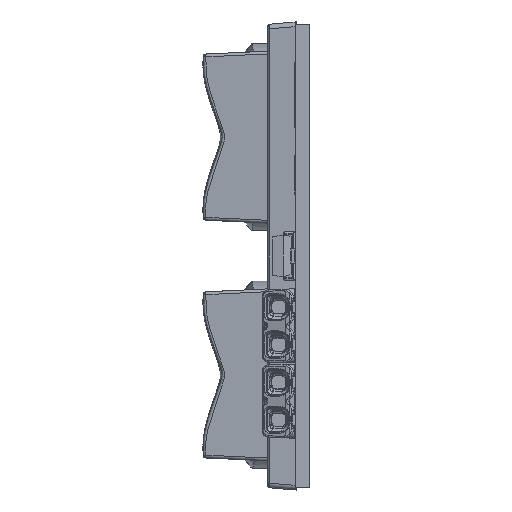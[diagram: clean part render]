
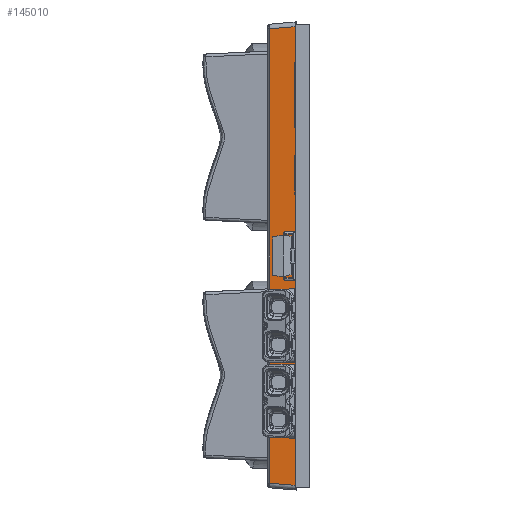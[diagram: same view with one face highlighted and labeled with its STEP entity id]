
A CAD part, left-side view. The second image highlights one B-rep face of the part: STEP entity #145010.
In plain terms, the highlighted planar face has unit normal (-0.996, 0.087, 0) as drawn and (0, 0.996, 0.087) by its records, which use the part's own axes.
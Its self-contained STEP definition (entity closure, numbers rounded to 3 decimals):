
#19 = FACE_OUTER_BOUND ( 'NONE', #187467, .T. ) ;
#14310 = CARTESIAN_POINT ( 'NONE',  ( 36.964, 12.062, 2.517 ) ) ;
#28250 = EDGE_CURVE ( 'NONE', #192416, #188024, #69226, .T. ) ;
#33069 = CARTESIAN_POINT ( 'NONE',  ( 36.964, 12.062, 2.517 ) ) ;
#34108 = EDGE_CURVE ( 'NONE', #64538, #188024, #172507, .T. ) ;
#45650 = CARTESIAN_POINT ( 'NONE',  ( -11.564, 12.062, 2.517 ) ) ;
#51078 = CARTESIAN_POINT ( 'NONE',  ( 0., 12.062, 2.517 ) ) ;
#57203 = DIRECTION ( 'NONE',  ( 0., -0.087, 0.996 ) ) ;
#58496 = PLANE ( 'NONE',  #74661 ) ;
#64538 = VERTEX_POINT ( 'NONE', #33069 ) ;
#69226 = LINE ( 'NONE', #185663, #106698 ) ;
#69584 = CARTESIAN_POINT ( 'NONE',  ( 37.202, 12.3, -0.2 ) ) ;
#72563 = EDGE_CURVE ( 'NONE', #73644, #64538, #173704, .T. ) ;
#72888 = ORIENTED_EDGE ( 'NONE', *, *, #34108, .T. ) ;
#73644 = VERTEX_POINT ( 'NONE', #45650 ) ;
#74460 = DIRECTION ( 'NONE',  ( 0.087, 0.087, -0.992 ) ) ;
#74661 = AXIS2_PLACEMENT_3D ( 'NONE', #116138, #148079, #57203 ) ;
#78505 = CARTESIAN_POINT ( 'NONE',  ( -11.802, 12.3, -0.2 ) ) ;
#79875 = DIRECTION ( 'NONE',  ( 1., 0., 0. ) ) ;
#79951 = ORIENTED_EDGE ( 'NONE', *, *, #72563, .T. ) ;
#81542 = EDGE_CURVE ( 'NONE', #192416, #73644, #98256, .T. ) ;
#98256 = LINE ( 'NONE', #131588, #114578 ) ;
#106698 = VECTOR ( 'NONE', #171897, 1000. ) ;
#114578 = VECTOR ( 'NONE', #177905, 1000. ) ;
#116138 = CARTESIAN_POINT ( 'NONE',  ( 0., 12.3, -0.2 ) ) ;
#117701 = VECTOR ( 'NONE', #79875, 1000. ) ;
#131588 = CARTESIAN_POINT ( 'NONE',  ( -11.802, 12.3, -0.2 ) ) ;
#145010 = ADVANCED_FACE ( 'NONE', ( #19 ), #58496, .T. ) ;
#148079 = DIRECTION ( 'NONE',  ( 0., 0.996, 0.087 ) ) ;
#161118 = ORIENTED_EDGE ( 'NONE', *, *, #81542, .T. ) ;
#171897 = DIRECTION ( 'NONE',  ( 1., 0., 0. ) ) ;
#172507 = LINE ( 'NONE', #14310, #188858 ) ;
#173704 = LINE ( 'NONE', #51078, #117701 ) ;
#177905 = DIRECTION ( 'NONE',  ( 0.087, -0.087, 0.992 ) ) ;
#185663 = CARTESIAN_POINT ( 'NONE',  ( 25.4, 12.3, -0.2 ) ) ;
#187467 = EDGE_LOOP ( 'NONE', ( #72888, #193179, #161118, #79951 ) ) ;
#188024 = VERTEX_POINT ( 'NONE', #69584 ) ;
#188858 = VECTOR ( 'NONE', #74460, 1000. ) ;
#192416 = VERTEX_POINT ( 'NONE', #78505 ) ;
#193179 = ORIENTED_EDGE ( 'NONE', *, *, #28250, .F. ) ;
